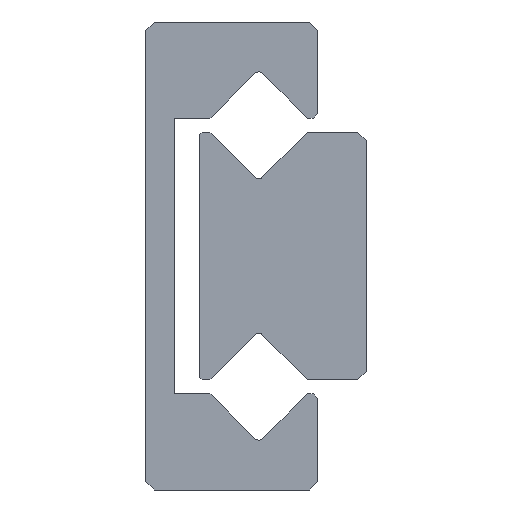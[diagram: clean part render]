
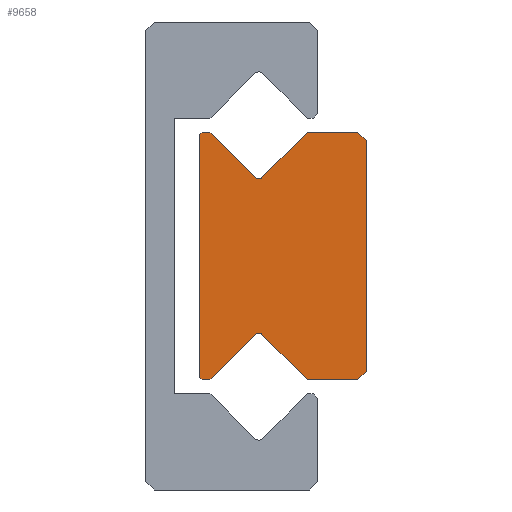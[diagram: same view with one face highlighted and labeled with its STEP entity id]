
A CAD part, left-side view. The second image highlights one B-rep face of the part: STEP entity #9658.
In plain terms, the highlighted planar face has unit normal (-1, 0, 0).
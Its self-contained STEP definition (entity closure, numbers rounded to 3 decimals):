
#54=CIRCLE('',#10218,0.2);
#60=CIRCLE('',#10232,0.2);
#1092=ORIENTED_EDGE('',*,*,#3980,.F.);
#1093=ORIENTED_EDGE('',*,*,#4034,.F.);
#1094=ORIENTED_EDGE('',*,*,#4027,.F.);
#1095=ORIENTED_EDGE('',*,*,#4024,.F.);
#1096=ORIENTED_EDGE('',*,*,#4021,.F.);
#1097=ORIENTED_EDGE('',*,*,#4018,.T.);
#1098=ORIENTED_EDGE('',*,*,#4015,.F.);
#1099=ORIENTED_EDGE('',*,*,#4012,.F.);
#1100=ORIENTED_EDGE('',*,*,#4009,.F.);
#1101=ORIENTED_EDGE('',*,*,#4006,.F.);
#1102=ORIENTED_EDGE('',*,*,#3999,.F.);
#1103=ORIENTED_EDGE('',*,*,#3996,.F.);
#1104=ORIENTED_EDGE('',*,*,#3993,.F.);
#1105=ORIENTED_EDGE('',*,*,#3990,.T.);
#1106=ORIENTED_EDGE('',*,*,#3987,.F.);
#1107=ORIENTED_EDGE('',*,*,#3984,.F.);
#3980=EDGE_CURVE('',#5468,#5469,#6472,.T.);
#3984=EDGE_CURVE('',#5469,#5472,#6476,.T.);
#3987=EDGE_CURVE('',#5472,#5474,#6479,.T.);
#3990=EDGE_CURVE('',#5476,#5474,#54,.T.);
#3993=EDGE_CURVE('',#5476,#5478,#6483,.T.);
#3996=EDGE_CURVE('',#5478,#5480,#6486,.T.);
#3999=EDGE_CURVE('',#5480,#5482,#6489,.T.);
#4006=EDGE_CURVE('',#5482,#5488,#6492,.T.);
#4009=EDGE_CURVE('',#5488,#5490,#6495,.T.);
#4012=EDGE_CURVE('',#5490,#5492,#6498,.T.);
#4015=EDGE_CURVE('',#5492,#5494,#6501,.T.);
#4018=EDGE_CURVE('',#5496,#5494,#60,.T.);
#4021=EDGE_CURVE('',#5496,#5498,#6505,.T.);
#4024=EDGE_CURVE('',#5498,#5500,#6508,.T.);
#4027=EDGE_CURVE('',#5500,#5502,#6511,.T.);
#4034=EDGE_CURVE('',#5502,#5468,#6514,.T.);
#5468=VERTEX_POINT('',#14650);
#5469=VERTEX_POINT('',#14651);
#5472=VERTEX_POINT('',#14659);
#5474=VERTEX_POINT('',#14665);
#5476=VERTEX_POINT('',#14671);
#5478=VERTEX_POINT('',#14677);
#5480=VERTEX_POINT('',#14683);
#5482=VERTEX_POINT('',#14689);
#5488=VERTEX_POINT('',#14703);
#5490=VERTEX_POINT('',#14709);
#5492=VERTEX_POINT('',#14715);
#5494=VERTEX_POINT('',#14721);
#5496=VERTEX_POINT('',#14727);
#5498=VERTEX_POINT('',#14733);
#5500=VERTEX_POINT('',#14739);
#5502=VERTEX_POINT('',#14745);
#6472=LINE('',#14649,#7312);
#6476=LINE('',#14658,#7316);
#6479=LINE('',#14664,#7319);
#6483=LINE('',#14676,#7323);
#6486=LINE('',#14682,#7326);
#6489=LINE('',#14688,#7329);
#6492=LINE('',#14702,#7332);
#6495=LINE('',#14708,#7335);
#6498=LINE('',#14714,#7338);
#6501=LINE('',#14720,#7341);
#6505=LINE('',#14732,#7345);
#6508=LINE('',#14738,#7348);
#6511=LINE('',#14744,#7351);
#6514=LINE('',#14758,#7354);
#7312=VECTOR('',#11415,1000.);
#7316=VECTOR('',#11421,1000.);
#7319=VECTOR('',#11426,1000.);
#7323=VECTOR('',#11438,1000.);
#7326=VECTOR('',#11443,1000.);
#7329=VECTOR('',#11448,1000.);
#7332=VECTOR('',#11461,1000.);
#7335=VECTOR('',#11466,1000.);
#7338=VECTOR('',#11471,1000.);
#7341=VECTOR('',#11476,1000.);
#7345=VECTOR('',#11488,1000.);
#7348=VECTOR('',#11493,1000.);
#7351=VECTOR('',#11498,1000.);
#7354=VECTOR('',#11511,1000.);
#8177=EDGE_LOOP('',(#1092,#1093,#1094,#1095,#1096,#1097,#1098,#1099,#1100,
#1101,#1102,#1103,#1104,#1105,#1106,#1107));
#8811=FACE_BOUND('',#8177,.T.);
#9435=PLANE('',#10243);
#9658=ADVANCED_FACE('',(#8811),#9435,.F.);
#10218=AXIS2_PLACEMENT_3D('',#14670,#11431,#11432);
#10232=AXIS2_PLACEMENT_3D('',#14726,#11481,#11482);
#10243=AXIS2_PLACEMENT_3D('',#14761,#11515,#11516);
#11415=DIRECTION('',(0.,-0.707,0.707));
#11421=DIRECTION('',(0.,-1.,0.));
#11426=DIRECTION('',(0.,-0.707,-0.707));
#11431=DIRECTION('',(1.,0.,0.));
#11432=DIRECTION('',(0.,0.,-1.));
#11438=DIRECTION('',(0.,-0.707,0.707));
#11443=DIRECTION('',(0.,-1.,0.));
#11448=DIRECTION('',(0.,-0.707,-0.707));
#11461=DIRECTION('',(0.,0.,-1.));
#11466=DIRECTION('',(0.,0.707,-0.707));
#11471=DIRECTION('',(0.,1.,0.));
#11476=DIRECTION('',(0.,0.707,0.707));
#11481=DIRECTION('',(1.,0.,0.));
#11482=DIRECTION('',(0.,0.,-1.));
#11488=DIRECTION('',(0.,0.707,-0.707));
#11493=DIRECTION('',(0.,1.,0.));
#11498=DIRECTION('',(0.,0.707,0.707));
#11511=DIRECTION('',(0.,0.,1.));
#11515=DIRECTION('',(1.,0.,0.));
#11516=DIRECTION('',(0.,0.,-1.));
#14649=CARTESIAN_POINT('',(-30.,6.05,4.4));
#14650=CARTESIAN_POINT('',(-30.,6.05,4.4));
#14651=CARTESIAN_POINT('',(-30.,5.95,4.5));
#14658=CARTESIAN_POINT('',(-30.,5.95,4.5));
#14659=CARTESIAN_POINT('',(-30.,5.671,4.5));
#14664=CARTESIAN_POINT('',(-30.,5.671,4.5));
#14665=CARTESIAN_POINT('',(-30.,4.041,2.87));
#14670=CARTESIAN_POINT('',(-30.,3.9,3.012));
#14671=CARTESIAN_POINT('',(-30.,3.759,2.87));
#14676=CARTESIAN_POINT('',(-30.,3.759,2.87));
#14677=CARTESIAN_POINT('',(-30.,2.129,4.5));
#14682=CARTESIAN_POINT('',(-30.,2.129,4.5));
#14683=CARTESIAN_POINT('',(-30.,0.3,4.5));
#14688=CARTESIAN_POINT('',(-30.,0.3,4.5));
#14689=CARTESIAN_POINT('',(-30.,0.,4.2));
#14702=CARTESIAN_POINT('',(-30.,0.,4.2));
#14703=CARTESIAN_POINT('',(-30.,0.,-4.2));
#14708=CARTESIAN_POINT('',(-30.,0.,-4.2));
#14709=CARTESIAN_POINT('',(-30.,0.3,-4.5));
#14714=CARTESIAN_POINT('',(-30.,0.3,-4.5));
#14715=CARTESIAN_POINT('',(-30.,2.129,-4.5));
#14720=CARTESIAN_POINT('',(-30.,2.129,-4.5));
#14721=CARTESIAN_POINT('',(-30.,3.759,-2.87));
#14726=CARTESIAN_POINT('',(-30.,3.9,-3.012));
#14727=CARTESIAN_POINT('',(-30.,4.041,-2.87));
#14732=CARTESIAN_POINT('',(-30.,4.041,-2.87));
#14733=CARTESIAN_POINT('',(-30.,5.671,-4.5));
#14738=CARTESIAN_POINT('',(-30.,5.671,-4.5));
#14739=CARTESIAN_POINT('',(-30.,5.95,-4.5));
#14744=CARTESIAN_POINT('',(-30.,5.95,-4.5));
#14745=CARTESIAN_POINT('',(-30.,6.05,-4.4));
#14758=CARTESIAN_POINT('',(-30.,6.05,-4.4));
#14761=CARTESIAN_POINT('',(-30.,3.9,3.012));
